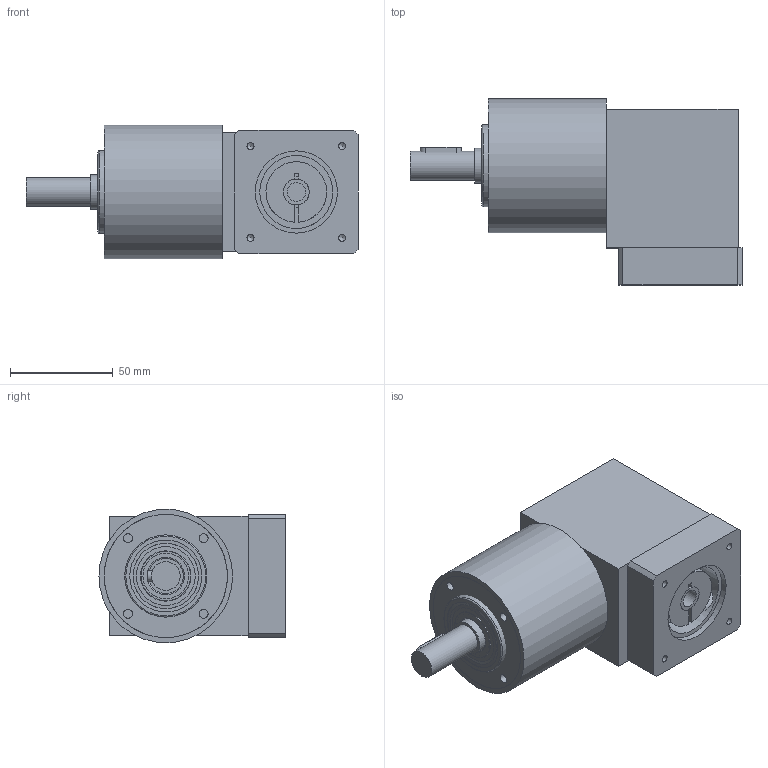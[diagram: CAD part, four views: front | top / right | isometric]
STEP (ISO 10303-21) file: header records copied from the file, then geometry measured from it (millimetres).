
FILE_DESCRIPTION(/* description */ (''),/* implementation_level */ '2;1');
FILE_NAME(/* name */ 'E000180650065MP071010112309_step203.stp',/* time_stamp */ '2010-10-07T11:24:30+02:00',/* author */ (''),/* organization */ (''),/* preprocessor_version */ 'ST-DEVELOPER v11',/* originating_system */ 'UGS - NX 5.0',/* authorisation */ '');
FILE_SCHEMA (('CONFIG_CONTROL_DESIGN'));
Length unit declared in the file: millimetre
Products named in the file (1): E000180650065MP071010112309_M
Bounding box: 161.45 x 90.5 x 65 mm (x, y, z)
Volume: 606735.5 mm3; surface area: 100218.9 mm2
Topology: 14 solids, 14 shells, 154 faces, 322 edges, 206 vertices
Faces by surface type: plane 57, cylinder 57, cone 30, torus 10
Full cylindrical faces by diameter (mm): 3.432 x13, 4.351 x4, 4.5 x1, 7.5 x1, 9 x1, 9.75 x1, 12.5 x1, 14 x1, 15 x1, 17 x2, 22.2 x2, 24.5 x2, 32.9 x2, 35 x4, 35.5 x1, 40 x2, 43 x2, 50 x2, 57.4 x1, 59.85 x1, 60 x2, 65 x1
Entity records: 3596 total; most frequent: DIRECTION 638, CARTESIAN_POINT 638, ORIENTED_EDGE 400, AXIS2_PLACEMENT_3D 286, EDGE_LOOP 264, FACE_BOUND 237, EDGE_CURVE 200, VERTEX_POINT 184
